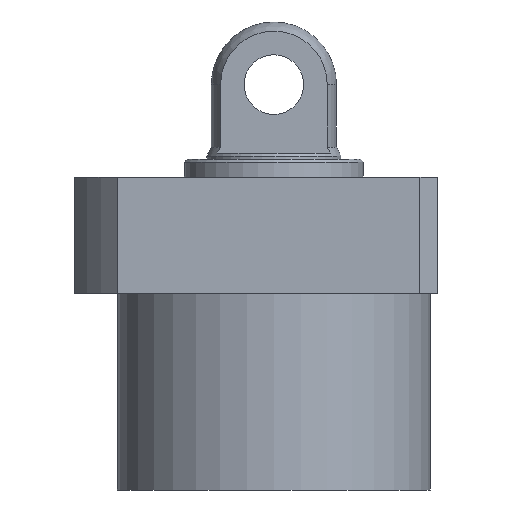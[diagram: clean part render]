
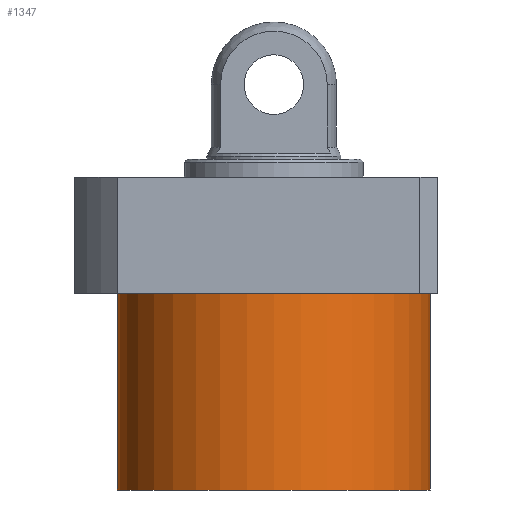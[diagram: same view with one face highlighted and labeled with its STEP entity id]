
A CAD part, front view. The second image highlights one B-rep face of the part: STEP entity #1347.
In plain terms, the highlighted cylindrical face has radius 52.5 mm (diameter 105 mm), a partial arc.
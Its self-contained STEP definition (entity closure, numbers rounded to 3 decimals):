
#7 = CARTESIAN_POINT ( 'NONE',  ( 52.5, 0., -85.5 ) ) ;
#10 = EDGE_CURVE ( 'NONE', #160, #1359, #323, .T. ) ;
#24 = DIRECTION ( 'NONE',  ( 0., 0., -1. ) ) ;
#83 = CARTESIAN_POINT ( 'NONE',  ( -52.5, 0., -85.5 ) ) ;
#140 = VERTEX_POINT ( 'NONE', #1446 ) ;
#157 = ORIENTED_EDGE ( 'NONE', *, *, #288, .F. ) ;
#160 = VERTEX_POINT ( 'NONE', #759 ) ;
#197 = ORIENTED_EDGE ( 'NONE', *, *, #10, .T. ) ;
#237 = CIRCLE ( 'NONE', #501, 52.5 ) ;
#258 = DIRECTION ( 'NONE',  ( 0., 0., 1. ) ) ;
#288 = EDGE_CURVE ( 'NONE', #655, #140, #766, .T. ) ;
#323 = LINE ( 'NONE', #7, #1681 ) ;
#438 = CARTESIAN_POINT ( 'NONE',  ( 0., 0., -19.5 ) ) ;
#492 = EDGE_CURVE ( 'NONE', #160, #655, #237, .T. ) ;
#493 = ORIENTED_EDGE ( 'NONE', *, *, #1101, .T. ) ;
#501 = AXIS2_PLACEMENT_3D ( 'NONE', #1102, #24, #840 ) ;
#655 = VERTEX_POINT ( 'NONE', #1697 ) ;
#759 = CARTESIAN_POINT ( 'NONE',  ( 52.5, 0., -85.5 ) ) ;
#766 = LINE ( 'NONE', #83, #924 ) ;
#774 = DIRECTION ( 'NONE',  ( 0., 0., 1. ) ) ;
#840 = DIRECTION ( 'NONE',  ( -1., 0., 0. ) ) ;
#910 = ORIENTED_EDGE ( 'NONE', *, *, #492, .F. ) ;
#923 = CYLINDRICAL_SURFACE ( 'NONE', #1391, 52.5 ) ;
#924 = VECTOR ( 'NONE', #774, 1000. ) ;
#974 = DIRECTION ( 'NONE',  ( 0., 0., -1. ) ) ;
#1062 = CARTESIAN_POINT ( 'NONE',  ( 52.5, 0., -19.5 ) ) ;
#1087 = FACE_OUTER_BOUND ( 'NONE', #1106, .T. ) ;
#1101 = EDGE_CURVE ( 'NONE', #1359, #140, #1435, .T. ) ;
#1102 = CARTESIAN_POINT ( 'NONE',  ( 0., 0., -85.5 ) ) ;
#1106 = EDGE_LOOP ( 'NONE', ( #157, #910, #197, #493 ) ) ;
#1204 = AXIS2_PLACEMENT_3D ( 'NONE', #438, #974, #1266 ) ;
#1266 = DIRECTION ( 'NONE',  ( 1., 0., 0. ) ) ;
#1333 = CARTESIAN_POINT ( 'NONE',  ( 0., 0., -85.5 ) ) ;
#1342 = DIRECTION ( 'NONE',  ( 1., 0., 0. ) ) ;
#1347 = ADVANCED_FACE ( 'NONE', ( #1087 ), #923, .T. ) ;
#1359 = VERTEX_POINT ( 'NONE', #1062 ) ;
#1391 = AXIS2_PLACEMENT_3D ( 'NONE', #1333, #258, #1342 ) ;
#1435 = CIRCLE ( 'NONE', #1204, 52.5 ) ;
#1446 = CARTESIAN_POINT ( 'NONE',  ( -52.5, 0., -19.5 ) ) ;
#1488 = DIRECTION ( 'NONE',  ( 0., 0., 1. ) ) ;
#1681 = VECTOR ( 'NONE', #1488, 1000. ) ;
#1697 = CARTESIAN_POINT ( 'NONE',  ( -52.5, 0., -85.5 ) ) ;
